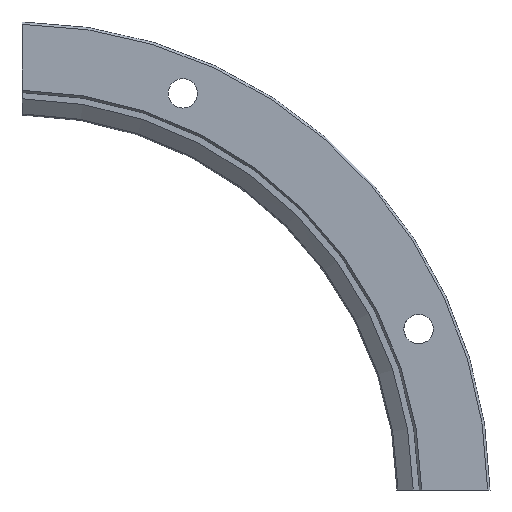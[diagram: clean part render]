
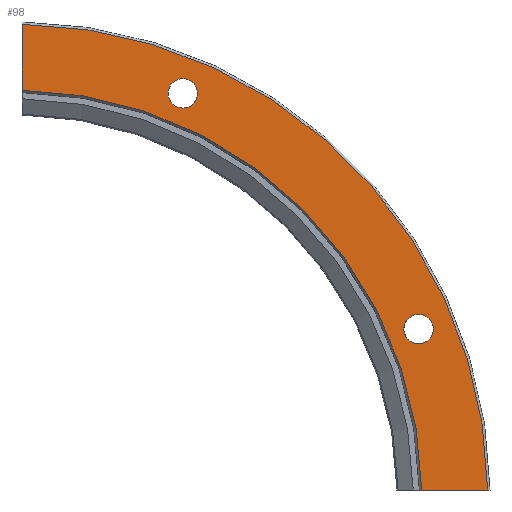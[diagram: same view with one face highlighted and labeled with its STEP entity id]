
A CAD part, front view. The second image highlights one B-rep face of the part: STEP entity #98.
In plain terms, the highlighted planar face has unit normal (0, -1, 0).
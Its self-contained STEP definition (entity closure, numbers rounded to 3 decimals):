
#98=ADVANCED_FACE('',(#126,#127,#128),#129,.T.);
#126=FACE_OUTER_BOUND('',#176,.T.);
#127=FACE_BOUND('',#177,.T.);
#128=FACE_BOUND('',#178,.T.);
#129=PLANE('',#179);
#176=EDGE_LOOP('',(#259,#260,#261,#262));
#177=EDGE_LOOP('',(#263));
#178=EDGE_LOOP('',(#264));
#179=AXIS2_PLACEMENT_3D('',#265,#266,#267);
#259=ORIENTED_EDGE('',*,*,#373,.F.);
#260=ORIENTED_EDGE('',*,*,#385,.T.);
#261=ORIENTED_EDGE('',*,*,#386,.F.);
#262=ORIENTED_EDGE('',*,*,#374,.T.);
#263=ORIENTED_EDGE('',*,*,#387,.F.);
#264=ORIENTED_EDGE('',*,*,#388,.F.);
#265=CARTESIAN_POINT('',(74.5,0.0,0.0));
#266=DIRECTION('',(0.0,-1.0,0.0));
#267=DIRECTION('',(0.0,0.0,-1.0));
#373=EDGE_CURVE('',#427,#406,#429,.T.);
#374=EDGE_CURVE('',#430,#406,#431,.T.);
#385=EDGE_CURVE('',#427,#448,#449,.F.);
#386=EDGE_CURVE('',#430,#448,#450,.T.);
#387=EDGE_CURVE('',#451,#451,#452,.T.);
#388=EDGE_CURVE('',#453,#453,#454,.T.);
#406=VERTEX_POINT('',#482);
#427=VERTEX_POINT('',#527);
#429=LINE('',#532,#533);
#430=VERTEX_POINT('',#534);
#431=CIRCLE('',#535,80.1);
#448=VERTEX_POINT('',#560);
#449=CIRCLE('',#561,68.9);
#450=LINE('',#562,#563);
#451=VERTEX_POINT('',#564);
#452=CIRCLE('',#565,2.5);
#453=VERTEX_POINT('',#566);
#454=CIRCLE('',#567,2.5);
#482=CARTESIAN_POINT('',(1.0,0.0,80.094));
#527=CARTESIAN_POINT('',(1.0,0.,68.893));
#532=CARTESIAN_POINT('',(1.0,0.0,0.0));
#533=VECTOR('',#618,1.0);
#534=CARTESIAN_POINT('',(80.094,0.0,1.0));
#535=AXIS2_PLACEMENT_3D('',#619,#620,#621);
#560=CARTESIAN_POINT('',(68.893,0.0,1.0));
#561=AXIS2_PLACEMENT_3D('',#642,#643,#644);
#562=CARTESIAN_POINT('',(74.5,0.0,1.0));
#563=VECTOR('',#645,1.0);
#564=CARTESIAN_POINT('',(70.135,0.0,26.551));
#565=AXIS2_PLACEMENT_3D('',#646,#647,#648);
#566=CARTESIAN_POINT('',(30.819,0.0,68.367));
#567=AXIS2_PLACEMENT_3D('',#649,#650,#651);
#618=DIRECTION('',(0.0,0.0,1.0));
#619=CARTESIAN_POINT('',(0.0,0.0,0.0));
#620=DIRECTION('',(0.0,-1.0,0.0));
#621=DIRECTION('',(0.0,0.0,-1.0));
#642=CARTESIAN_POINT('',(0.0,0.0,0.0));
#643=DIRECTION('',(0.0,-1.0,0.0));
#644=DIRECTION('',(0.0,0.0,-1.0));
#645=DIRECTION('',(-1.0,0.0,0.0));
#646=CARTESIAN_POINT('',(68.367,0.0,28.319));
#647=DIRECTION('',(0.0,-1.0,0.0));
#648=DIRECTION('',(0.707,0.0,-0.707));
#649=CARTESIAN_POINT('',(28.319,0.0,68.367));
#650=DIRECTION('',(0.0,-1.0,0.0));
#651=DIRECTION('',(1.0,0.0,0.0));
